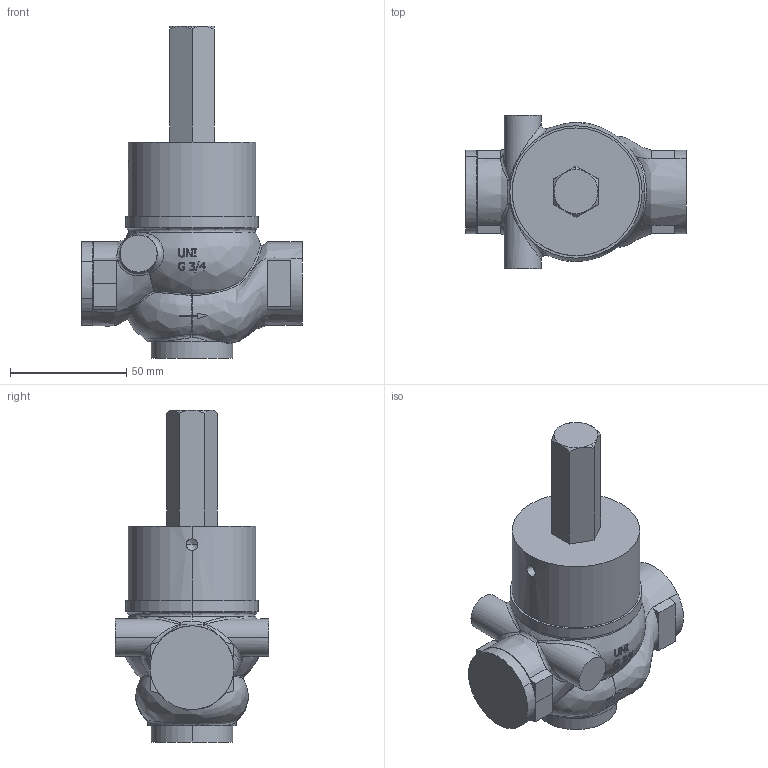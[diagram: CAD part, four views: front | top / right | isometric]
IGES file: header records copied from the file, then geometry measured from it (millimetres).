
Global section: file name: No Iges File Name specified; native system: AutoDesk Inventor R12.0; preprocessor: AutoDesk Inventor Iges Exporter R12.0; date: 20100519.115916; units: millimetre
Bounding box: 95 x 66 x 143 mm (x, y, z)
Volume: 275818.4 mm3; surface area: 31055.3 mm2
Topology: 1 solids, 1 shells, 379 faces, 1043 edges, 671 vertices
Faces by surface type: bspline 180, plane 177, cylinder 12, revolution 6, cone 4
